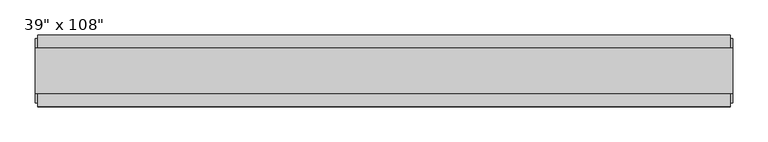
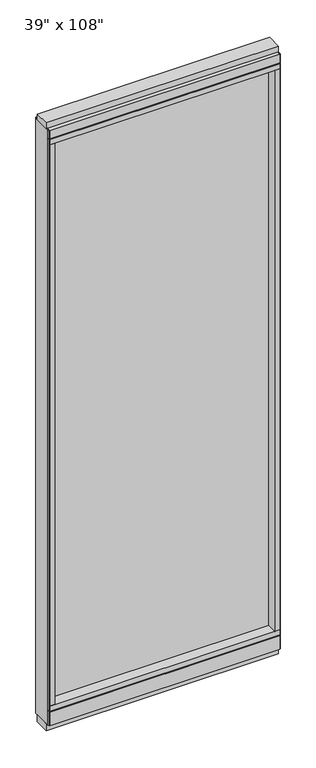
"""IFC4 building model written with IfcOpenShell, lengths in millimetres: furniture geometry."""

from ifc_helpers import new_model, si_unit, frame, origin, origin_with_axes, place, context, project, spatial, polyline, outline, extrude, source, transform, mapped, element, save


def furniture_4e5c30b6(model_context):
    return source(origin(), model_context, "Body", "SweptSolid", [
        extrude(outline(polyline([(409.4983521, 9.5977216), (409.4983521, -0.5622784), (-529.5713979, -0.5622784), (-529.5713979, 9.5977216), (409.4983521, 9.5977216)])), frame((0.0, 0.0, 120.523), z_axis=(0.0, 0.0, 1.0), x_axis=(1.0, 0.0, 0.0)), (0.0, 0.0, 1.0), 2533.777),
        extrude(outline(polyline([(55.3177216, 93.345), (55.3177216, 31.75), (-46.2822784, 31.75), (-46.2822784, 93.345), (-41.3292784, 93.345), (-41.3292784, 98.298), (50.3647216, 98.298), (50.3647216, 93.345), (55.3177216, 93.345)])), frame((-551.7963979, 0.0, 0.0), z_axis=(1.0, 0.0, 0.0), x_axis=(0.0, 1.0, 0.0)), (0.0, 0.0, 1.0), 983.51975),
        extrude(outline(polyline([(-551.7963979, 55.3177216), (431.7233521, 55.3177216), (431.7233521, -46.2822784), (-551.7963979, -46.2822784), (-551.7963979, 55.3177216)])), frame((0.0, 0.0, 98.298), z_axis=(0.0, 0.0, 1.0), x_axis=(1.0, 0.0, 0.0)), (0.0, 0.0, 1.0), 22.225),
        extrude(outline(polyline([(435.6603521, -27.9942784), (-555.7333979, -27.9942784), (-555.7333979, 37.0297216), (435.6603521, 37.0297216), (435.6603521, -27.9942784)])), origin_with_axes(), (0.0, 0.0, 1.0), 31.75),
        extrude(outline(polyline([(-555.7333979, 37.0297216), (435.6603521, 37.0297216), (435.6603521, -27.9942784), (-555.7333979, -27.9942784), (-555.7333979, 37.0297216)])), frame((0.0, 0.0, 2717.8), z_axis=(0.0, 0.0, 1.0), x_axis=(1.0, 0.0, 0.0)), (0.0, 0.0, 1.0), 25.4),
        extrude(outline(polyline([(55.3177216, 2681.478), (50.3647216, 2681.478), (50.3647216, 2676.525), (-41.3292784, 2676.525), (-41.3292784, 2681.478), (-46.2822784, 2681.478), (-46.2822784, 2717.8), (55.3177216, 2717.8), (55.3177216, 2681.478)])), frame((-551.7963979, 0.0, 0.0), z_axis=(1.0, 0.0, 0.0), x_axis=(0.0, 1.0, 0.0)), (0.0, 0.0, 1.0), 983.51975),
        extrude(outline(polyline([(431.7233521, -46.2822784), (-551.7963979, -46.2822784), (-551.7963979, 55.3177216), (431.7233521, 55.3177216), (431.7233521, -46.2822784)])), frame((0.0, 0.0, 2654.3), z_axis=(0.0, 0.0, 1.0), x_axis=(1.0, 0.0, 0.0)), (0.0, 0.0, 1.0), 22.225),
        extrude(outline(polyline([(409.4983521, 55.3177216), (431.7233521, 55.3177216), (431.7233521, -46.2822784), (409.4983521, -46.2822784), (409.4983521, 55.3177216)])), frame((0.0, 0.0, 120.523), z_axis=(0.0, 0.0, 1.0), x_axis=(1.0, 0.0, 0.0)), (0.0, 0.0, 1.0), 2533.777),
        extrude(outline(polyline([(-529.5713979, 55.3177216), (-529.5713979, -46.2822784), (-551.7963979, -46.2822784), (-551.7963979, 55.3177216), (-529.5713979, 55.3177216)])), frame((0.0, 0.0, 120.523), z_axis=(0.0, 0.0, 1.0), x_axis=(1.0, 0.0, 0.0)), (0.0, 0.0, 1.0), 2533.777),
        extrude(outline(polyline([(435.6603521, 50.3647216), (435.6603521, -41.3292784), (431.7233521, -41.3292784), (431.7233521, 50.3647216), (435.6603521, 50.3647216)])), frame((0.0, 0.0, 31.75), z_axis=(0.0, 0.0, 1.0), x_axis=(1.0, 0.0, 0.0)), (0.0, 0.0, 1.0), 2686.05),
        extrude(outline(polyline([(-555.7333979, 50.3647216), (-551.7963979, 50.3647216), (-551.7963979, -41.3292784), (-555.7333979, -41.3292784), (-555.7333979, 50.3647216)])), frame((0.0, 0.0, 31.75), z_axis=(0.0, 0.0, 1.0), x_axis=(1.0, 0.0, 0.0)), (0.0, 0.0, 1.0), 2686.05),
    ])


if __name__ == "__main__":
    model = new_model("IFC4")
    model_context = context("Model", 3, world=origin())
    ifc_project = project(units=[si_unit("LENGTHUNIT", "METRE", prefix="MILLI")], contexts=[model_context])
    site = spatial("IfcSite", under=ifc_project)
    building = spatial("IfcBuilding", under=site)
    placement = place(None, origin())
    furniture_shape = furniture_4e5c30b6(model_context)
    element("IfcFurniture", 1, ObjectType="Haworth_Enclose_Wall_Glass : 39\" x 108\"", at=placement, inside=building, context=model_context, shape_type="MappedRepresentation", body=[
        mapped(furniture_shape, transform((0.0, 0.0, 0.0), x_axis=(1.0, 0.0, 0.0), y_axis=(0.0, 1.0, 0.0), z_axis=(0.0, 0.0, 1.0))),
    ])
    save(model, "model.ifc")
